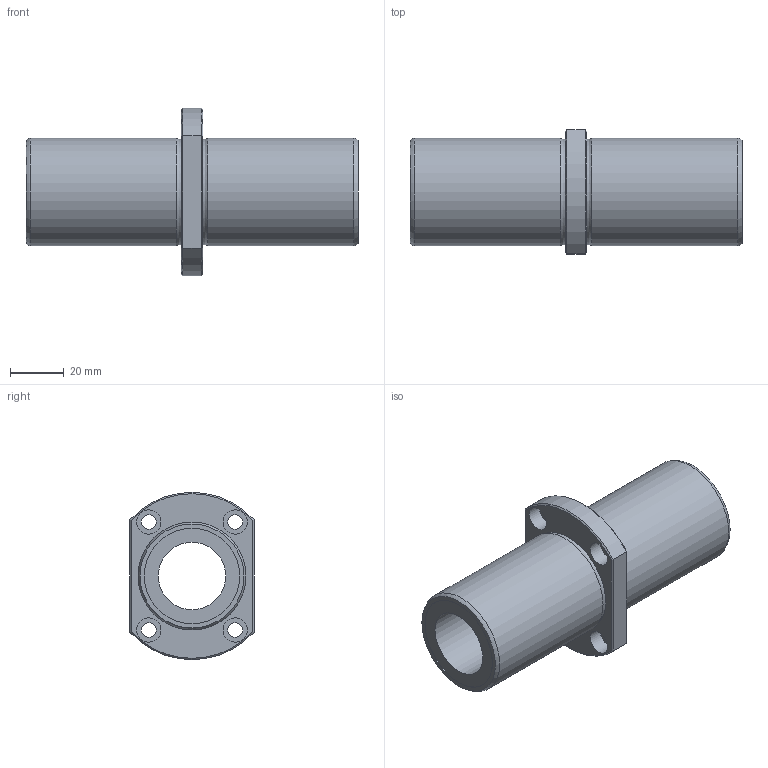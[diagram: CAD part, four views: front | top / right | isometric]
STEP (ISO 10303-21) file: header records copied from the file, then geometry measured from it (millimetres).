
FILE_DESCRIPTION((''),'2;1');
FILE_NAME('D:\製品 (図面)\カタログ用3D\メンテナンスフリー関連\STEP形式\LFDTC-MF\LFDTC25MF.stp','2010-06-01T15:48:44',('Tsuchiya'),(''),'Autodesk Inventor 10','Autodesk Inventor 10','');
FILE_SCHEMA(('AUTOMOTIVE_DESIGN { 1 0 10303 214 1 1 1 1 }'));
Length unit declared in the file: millimetre
Products named in the file (1): LFDTC25MF
Bounding box: 123 x 46 x 62 mm (x, y, z)
Volume: 102599.5 mm3; surface area: 30229.5 mm2
Topology: 1 solids, 1 shells, 39 faces, 75 edges, 46 vertices
Faces by surface type: plane 16, cylinder 15, cone 4, torus 2, bspline 2
Full cylindrical faces by diameter (mm): 5.5 x4, 9 x4, 25 x1, 35.3 x2, 40 x2
Entity records: 1073 total; most frequent: CARTESIAN_POINT 292, DIRECTION 164, ORIENTED_EDGE 116, AXIS2_PLACEMENT_3D 76, EDGE_LOOP 74, EDGE_CURVE 58, VERTEX_POINT 46, FACE_OUTER_BOUND 39
